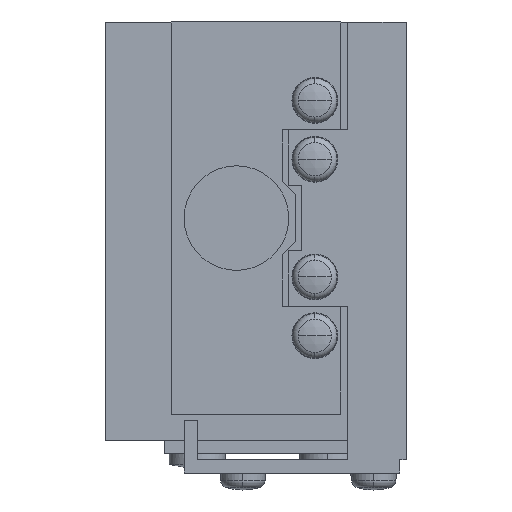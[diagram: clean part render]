
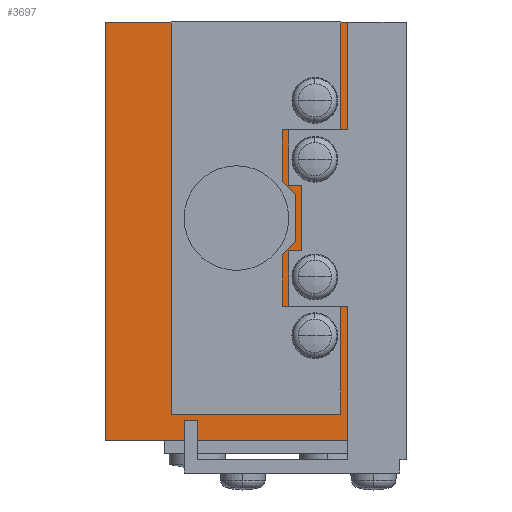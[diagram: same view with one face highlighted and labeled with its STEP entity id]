
A CAD part, left-side view. The second image highlights one B-rep face of the part: STEP entity #3697.
In plain terms, the highlighted planar face has unit normal (-1, 0, 0).
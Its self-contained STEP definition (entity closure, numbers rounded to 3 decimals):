
#148 = CARTESIAN_POINT ( 'NONE',  ( 27., 5., -0.75 ) ) ;
#149 = DIRECTION ( 'NONE',  ( 0., 1., 0. ) ) ;
#150 = VECTOR ( 'NONE', #149, 1000. ) ;
#151 = DIRECTION ( 'NONE',  ( 0., 1., 0. ) ) ;
#152 = DIRECTION ( 'NONE',  ( -1., 0., 0. ) ) ;
#153 = AXIS2_PLACEMENT_3D ( 'NONE', #160, #152, #151 ) ;
#154 = CIRCLE ( 'NONE', #153, 3.5 ) ;
#160 = CARTESIAN_POINT ( 'NONE',  ( 27., 13., 1.75 ) ) ;
#167 = CARTESIAN_POINT ( 'NONE',  ( 27., 4.5, -15.25 ) ) ;
#168 = DIRECTION ( 'NONE',  ( 0., 0., 1. ) ) ;
#169 = VECTOR ( 'NONE', #168, 1000. ) ;
#170 = CARTESIAN_POINT ( 'NONE',  ( 27., 4.5, -16.75 ) ) ;
#171 = LINE ( 'NONE', #170, #169 ) ;
#215 = PLANE ( 'NONE',  #282 ) ;
#216 = FACE_OUTER_BOUND ( 'NONE', #3679, .T. ) ;
#217 = FACE_BOUND ( 'NONE', #3699, .T. ) ;
#218 = DIRECTION ( 'NONE',  ( 0., 1., 0. ) ) ;
#219 = VECTOR ( 'NONE', #218, 1000. ) ;
#220 = CARTESIAN_POINT ( 'NONE',  ( 27., 0.5, -15.25 ) ) ;
#221 = LINE ( 'NONE', #220, #219 ) ;
#222 = DIRECTION ( 'NONE',  ( 0., 1., 0. ) ) ;
#223 = VECTOR ( 'NONE', #222, 1000. ) ;
#224 = CARTESIAN_POINT ( 'NONE',  ( 27., 0.5, -15.25 ) ) ;
#225 = LINE ( 'NONE', #224, #223 ) ;
#279 = DIRECTION ( 'NONE',  ( 0., -1., 0. ) ) ;
#280 = DIRECTION ( 'NONE',  ( 1., 0., 0. ) ) ;
#281 = CARTESIAN_POINT ( 'NONE',  ( 27., 0.5, -15.25 ) ) ;
#282 = AXIS2_PLACEMENT_3D ( 'NONE', #281, #280, #279 ) ;
#1848 = CIRCLE ( 'NONE', #1912, 3.5 ) ;
#1853 = CARTESIAN_POINT ( 'NONE',  ( 27., 13., 1.75 ) ) ;
#1908 = CARTESIAN_POINT ( 'NONE',  ( 27., 13., -1.75 ) ) ;
#1909 = CARTESIAN_POINT ( 'NONE',  ( 27., 13., 5.25 ) ) ;
#1910 = DIRECTION ( 'NONE',  ( 0., 1., 0. ) ) ;
#1911 = DIRECTION ( 'NONE',  ( -1., 0., 0. ) ) ;
#1912 = AXIS2_PLACEMENT_3D ( 'NONE', #1853, #1911, #1910 ) ;
#2381 = DIRECTION ( 'NONE',  ( 0., -1., 0. ) ) ;
#2382 = VECTOR ( 'NONE', #2381, 1000. ) ;
#2383 = CARTESIAN_POINT ( 'NONE',  ( 27., 5., 8.5 ) ) ;
#2384 = LINE ( 'NONE', #2383, #2382 ) ;
#2385 = CARTESIAN_POINT ( 'NONE',  ( 27., 4.5, 8.5 ) ) ;
#2395 = CARTESIAN_POINT ( 'NONE',  ( 27., 5., 8.5 ) ) ;
#3261 = VERTEX_POINT ( 'NONE', #6230 ) ;
#3263 = EDGE_CURVE ( 'NONE', #3264, #3261, #6229, .T. ) ;
#3264 = VERTEX_POINT ( 'NONE', #6289 ) ;
#3438 = VERTEX_POINT ( 'NONE', #6531 ) ;
#3440 = EDGE_CURVE ( 'NONE', #3438, #3441, #6530, .T. ) ;
#3441 = VERTEX_POINT ( 'NONE', #6526 ) ;
#3468 = EDGE_CURVE ( 'NONE', #3441, #3469, #6550, .T. ) ;
#3469 = VERTEX_POINT ( 'NONE', #6611 ) ;
#3501 = EDGE_CURVE ( 'NONE', #3502, #3519, #6639, .T. ) ;
#3502 = VERTEX_POINT ( 'NONE', #6635 ) ;
#3512 = EDGE_CURVE ( 'NONE', #3536, #6847, #6624, .T. ) ;
#3519 = VERTEX_POINT ( 'NONE', #6671 ) ;
#3524 = EDGE_CURVE ( 'NONE', #3519, #3536, #6664, .T. ) ;
#3528 = EDGE_CURVE ( 'NONE', #6855, #3469, #6660, .T. ) ;
#3536 = VERTEX_POINT ( 'NONE', #6711 ) ;
#3544 = EDGE_CURVE ( 'NONE', #3567, #3545, #6700, .T. ) ;
#3545 = VERTEX_POINT ( 'NONE', #6696 ) ;
#3555 = EDGE_CURVE ( 'NONE', #3556, #3545, #6685, .T. ) ;
#3556 = VERTEX_POINT ( 'NONE', #6738 ) ;
#3557 = EDGE_CURVE ( 'NONE', #3261, #3575, #6737, .T. ) ;
#3564 = VERTEX_POINT ( 'NONE', #6723 ) ;
#3566 = EDGE_CURVE ( 'NONE', #3564, #3567, #6722, .T. ) ;
#3567 = VERTEX_POINT ( 'NONE', #6718 ) ;
#3574 = EDGE_CURVE ( 'NONE', #3575, #3502, #6454, .T. ) ;
#3575 = VERTEX_POINT ( 'NONE', #148 ) ;
#3614 = EDGE_CURVE ( 'NONE', #3615, #3264, #171, .T. ) ;
#3615 = VERTEX_POINT ( 'NONE', #167 ) ;
#3624 = EDGE_CURVE ( 'NONE', #4625, #4624, #154, .T. ) ;
#3667 = ORIENTED_EDGE ( 'NONE', *, *, #3574, .T. ) ;
#3668 = ORIENTED_EDGE ( 'NONE', *, *, #3501, .T. ) ;
#3669 = ORIENTED_EDGE ( 'NONE', *, *, #3524, .T. ) ;
#3670 = ORIENTED_EDGE ( 'NONE', *, *, #3512, .T. ) ;
#3671 = ORIENTED_EDGE ( 'NONE', *, *, #6857, .T. ) ;
#3672 = ORIENTED_EDGE ( 'NONE', *, *, #3528, .T. ) ;
#3673 = ORIENTED_EDGE ( 'NONE', *, *, #3468, .F. ) ;
#3674 = ORIENTED_EDGE ( 'NONE', *, *, #3440, .F. ) ;
#3678 = ORIENTED_EDGE ( 'NONE', *, *, #3624, .F. ) ;
#3679 = EDGE_LOOP ( 'NONE', ( #3680, #3682, #3683, #3684, #3685, #3687, #3688, #3689, #3667, #3668, #3669, #3670, #3671, #3672, #3673, #3674 ) ) ;
#3680 = ORIENTED_EDGE ( 'NONE', *, *, #3681, .F. ) ;
#3681 = EDGE_CURVE ( 'NONE', #3556, #3438, #225, .T. ) ;
#3682 = ORIENTED_EDGE ( 'NONE', *, *, #3555, .T. ) ;
#3683 = ORIENTED_EDGE ( 'NONE', *, *, #3544, .F. ) ;
#3684 = ORIENTED_EDGE ( 'NONE', *, *, #3566, .F. ) ;
#3685 = ORIENTED_EDGE ( 'NONE', *, *, #3686, .F. ) ;
#3686 = EDGE_CURVE ( 'NONE', #3615, #3564, #221, .T. ) ;
#3687 = ORIENTED_EDGE ( 'NONE', *, *, #3614, .T. ) ;
#3688 = ORIENTED_EDGE ( 'NONE', *, *, #3263, .T. ) ;
#3689 = ORIENTED_EDGE ( 'NONE', *, *, #3557, .T. ) ;
#3697 = ADVANCED_FACE ( 'NONE', ( #217, #216 ), #215, .F. ) ;
#3699 = EDGE_LOOP ( 'NONE', ( #3700, #3678 ) ) ;
#3700 = ORIENTED_EDGE ( 'NONE', *, *, #4623, .F. ) ;
#4623 = EDGE_CURVE ( 'NONE', #4624, #4625, #1848, .T. ) ;
#4624 = VERTEX_POINT ( 'NONE', #1909 ) ;
#4625 = VERTEX_POINT ( 'NONE', #1908 ) ;
#6227 = DIRECTION ( 'NONE',  ( 0., 1., 0. ) ) ;
#6228 = CARTESIAN_POINT ( 'NONE',  ( 27., 5., -5. ) ) ;
#6229 = LINE ( 'NONE', #6228, #6290 ) ;
#6230 = CARTESIAN_POINT ( 'NONE',  ( 27., 5., -5. ) ) ;
#6289 = CARTESIAN_POINT ( 'NONE',  ( 27., 4.5, -5. ) ) ;
#6290 = VECTOR ( 'NONE', #6227, 1000. ) ;
#6453 = CARTESIAN_POINT ( 'NONE',  ( 27., 5., -0.75 ) ) ;
#6454 = LINE ( 'NONE', #6453, #150 ) ;
#6526 = CARTESIAN_POINT ( 'NONE',  ( 27., 23., 16.75 ) ) ;
#6527 = DIRECTION ( 'NONE',  ( 0., 0., 1. ) ) ;
#6528 = VECTOR ( 'NONE', #6527, 1000. ) ;
#6529 = CARTESIAN_POINT ( 'NONE',  ( 27., 23., 16.75 ) ) ;
#6530 = LINE ( 'NONE', #6529, #6528 ) ;
#6531 = CARTESIAN_POINT ( 'NONE',  ( 27., 23., -15.25 ) ) ;
#6550 = LINE ( 'NONE', #6614, #6613 ) ;
#6611 = CARTESIAN_POINT ( 'NONE',  ( 27., 4.5, 16.75 ) ) ;
#6612 = DIRECTION ( 'NONE',  ( 0., -1., 0. ) ) ;
#6613 = VECTOR ( 'NONE', #6612, 1000. ) ;
#6614 = CARTESIAN_POINT ( 'NONE',  ( 27., 0.5, 16.75 ) ) ;
#6621 = DIRECTION ( 'NONE',  ( 0., 0., 1. ) ) ;
#6622 = VECTOR ( 'NONE', #6621, 1000. ) ;
#6623 = CARTESIAN_POINT ( 'NONE',  ( 27., 5., 4.25 ) ) ;
#6624 = LINE ( 'NONE', #6623, #6622 ) ;
#6635 = CARTESIAN_POINT ( 'NONE',  ( 27., 8., -0.75 ) ) ;
#6636 = DIRECTION ( 'NONE',  ( 0., 0., 1. ) ) ;
#6637 = VECTOR ( 'NONE', #6636, 1000. ) ;
#6638 = CARTESIAN_POINT ( 'NONE',  ( 27., 8., -0.75 ) ) ;
#6639 = LINE ( 'NONE', #6638, #6637 ) ;
#6657 = DIRECTION ( 'NONE',  ( 0., 0., 1. ) ) ;
#6658 = VECTOR ( 'NONE', #6657, 1000. ) ;
#6659 = CARTESIAN_POINT ( 'NONE',  ( 27., 4.5, 8.05 ) ) ;
#6660 = LINE ( 'NONE', #6659, #6658 ) ;
#6661 = DIRECTION ( 'NONE',  ( 0., -1., 0. ) ) ;
#6662 = VECTOR ( 'NONE', #6661, 1000. ) ;
#6663 = CARTESIAN_POINT ( 'NONE',  ( 27., 8., 4.25 ) ) ;
#6664 = LINE ( 'NONE', #6663, #6662 ) ;
#6671 = CARTESIAN_POINT ( 'NONE',  ( 27., 8., 4.25 ) ) ;
#6685 = LINE ( 'NONE', #6741, #6740 ) ;
#6696 = CARTESIAN_POINT ( 'NONE',  ( 27., 17., -13.75 ) ) ;
#6697 = DIRECTION ( 'NONE',  ( 0., 1., 0. ) ) ;
#6698 = VECTOR ( 'NONE', #6697, 1000. ) ;
#6699 = CARTESIAN_POINT ( 'NONE',  ( 27., 16., -13.75 ) ) ;
#6700 = LINE ( 'NONE', #6699, #6698 ) ;
#6711 = CARTESIAN_POINT ( 'NONE',  ( 27., 5., 4.25 ) ) ;
#6718 = CARTESIAN_POINT ( 'NONE',  ( 27., 16., -13.75 ) ) ;
#6719 = DIRECTION ( 'NONE',  ( 0., 0., 1. ) ) ;
#6720 = VECTOR ( 'NONE', #6719, 1000. ) ;
#6721 = CARTESIAN_POINT ( 'NONE',  ( 27., 16., -17.75 ) ) ;
#6722 = LINE ( 'NONE', #6721, #6720 ) ;
#6723 = CARTESIAN_POINT ( 'NONE',  ( 27., 16., -15.25 ) ) ;
#6734 = DIRECTION ( 'NONE',  ( 0., 0., 1. ) ) ;
#6735 = VECTOR ( 'NONE', #6734, 1000. ) ;
#6736 = CARTESIAN_POINT ( 'NONE',  ( 27., 5., -4.55 ) ) ;
#6737 = LINE ( 'NONE', #6736, #6735 ) ;
#6738 = CARTESIAN_POINT ( 'NONE',  ( 27., 17., -15.25 ) ) ;
#6739 = DIRECTION ( 'NONE',  ( 0., 0., 1. ) ) ;
#6740 = VECTOR ( 'NONE', #6739, 1000. ) ;
#6741 = CARTESIAN_POINT ( 'NONE',  ( 27., 17., -17.75 ) ) ;
#6847 = VERTEX_POINT ( 'NONE', #2395 ) ;
#6855 = VERTEX_POINT ( 'NONE', #2385 ) ;
#6857 = EDGE_CURVE ( 'NONE', #6847, #6855, #2384, .T. ) ;
